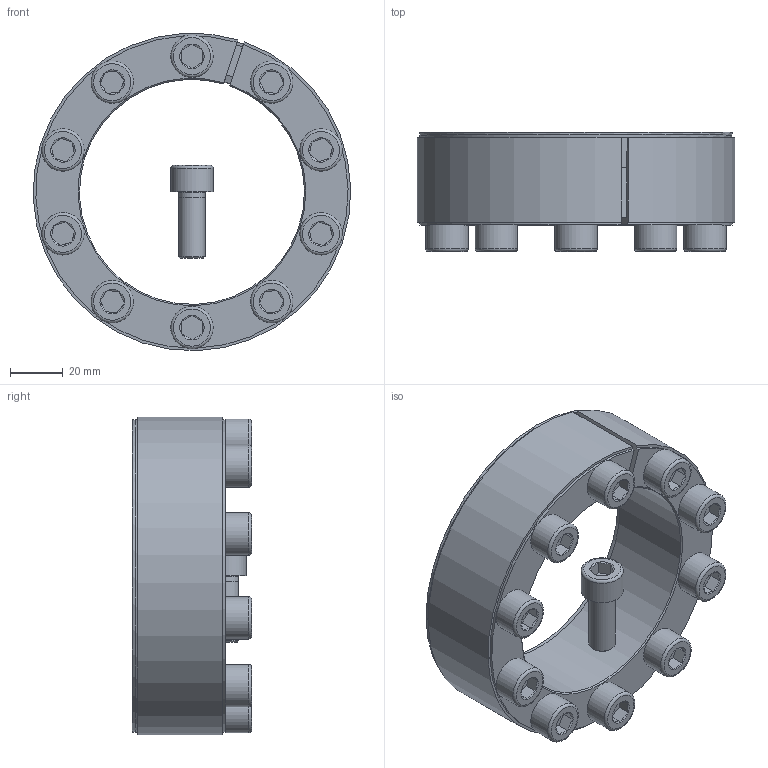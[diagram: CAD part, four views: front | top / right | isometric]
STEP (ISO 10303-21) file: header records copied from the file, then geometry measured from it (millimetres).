
FILE_DESCRIPTION( ( 'Unknown' ), '1' );
FILE_NAME( 'C:/Dokumente und Einstellungen/Sven/Desktop/homepage/cad - homepage/KBS52/KBS 52 - 85 x 120.stp', 'Unknown', ( 'Unknown' ), ( 'Unknown' ), 'XStep 1.0', 'Unknown', ' ' );
FILE_SCHEMA( ( 'automotive_design' ) );
Length unit declared in the file: millimetre
Products named in the file (3): Assem1; KBS 52 - 85 x 120; ISO EN DIN 4762 M10x25
Bounding box: 119.93 x 45 x 119.88 mm (x, y, z)
Volume: 375923.9 mm3; surface area: 107111.5 mm2
Topology: 13 solids, 13 shells, 335 faces, 657 edges, 390 vertices
Faces by surface type: plane 158, cone 83, cylinder 72, torus 22
Full cylindrical faces by diameter (mm): 9 x11, 10 x42, 16 x11, 118.175 x2
Entity records: 1797 total; most frequent: CARTESIAN_POINT 295, DIRECTION 279, ORIENTED_EDGE 204, AXIS2_PLACEMENT_3D 118, EDGE_CURVE 102, EDGE_LOOP 100, VERTEX_POINT 74, FACE_OUTER_BOUND 72
